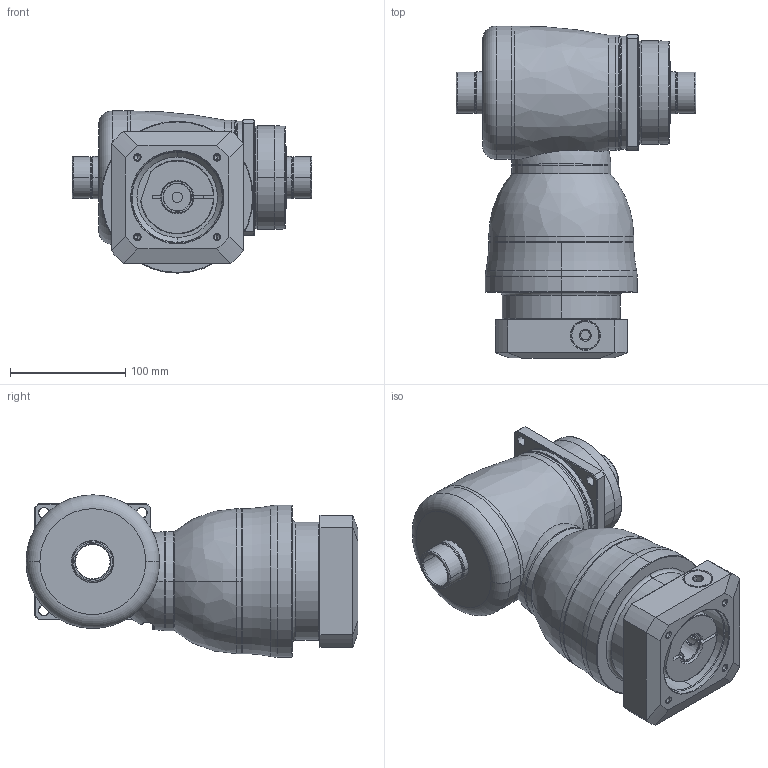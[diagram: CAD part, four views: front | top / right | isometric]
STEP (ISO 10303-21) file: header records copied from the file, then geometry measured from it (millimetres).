
FILE_DESCRIPTION((''),'2;1');
FILE_NAME('KF100_S4_2ST_24-P0409500101_ASM','2016-07-25T',('d01943'),(''),'PRO/ENGINEER BY PARAMETRIC TECHNOLOGY CORPORATION, 2008410','PRO/ENGINEER BY PARAMETRIC TECHNOLOGY CORPORATION, 2008410','');
FILE_SCHEMA(('CONFIG_CONTROL_DESIGN'));
Length unit declared in the file: millimetre
Products named in the file (11): P1008400002; P1804400001; P0914400001; P1315400001; P1007400001; P1317400201; P0409500101; P0503500010; P0912303001; 21711418017; KF100_S4_2ST_24-P0409500101_ASM
Assembly tree (10 placements, depth 2):
  KF100_S4_2ST_24-P0409500101_ASM
    P1008400002
    P1804400001
    P0914400001
    P1315400001
    P1007400001
    P1317400201
    P0409500101
    P0503500010
    P0912303001
    21711418017
Bounding box: 208.3 x 288.5 x 141 mm (x, y, z)
Volume: 2729162.9 mm3; surface area: 391017.2 mm2
Topology: 11 solids, 11 shells, 505 faces, 1120 edges, 660 vertices
Faces by surface type: cylinder 172, cone 126, plane 101, torus 68, bspline 36, sphere 2
Entity records: 20037 total; most frequent: CARTESIAN_POINT 8675, DIRECTION 2502, ORIENTED_EDGE 2204, EDGE_CURVE 1102, AXIS2_PLACEMENT_3D 1064, VERTEX_POINT 660, EDGE_LOOP 576, CIRCLE 574
